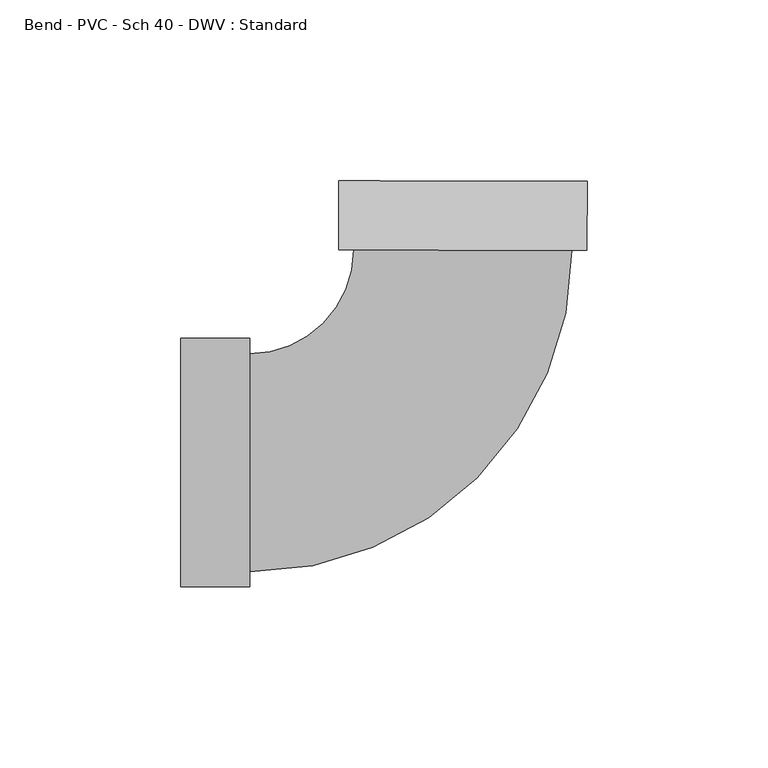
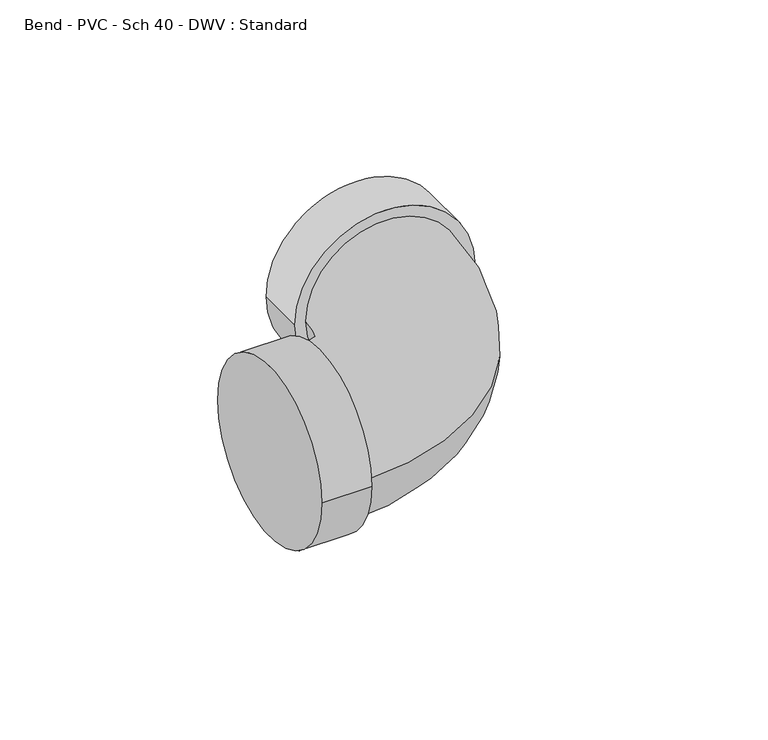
"""IFC4 building model written with IfcOpenShell, lengths in millimetres: pipe fitting geometry, Bend - PVC - Sch 40 - DWV : Standard."""

from ifc_helpers import new_model, si_unit, point, frame, origin, place, context, project, spatial, circle_curve, ellipse_curve, trimmed, source, transform, mapped, element, save
from ifc_brep_helpers import plane_surface, cylinder_surface, revolved_surface, advanced_brep


def bend_pvc_sch_40_dwv_standard_2ba8ce22(model_context):
    return source(origin(), model_context, "Body", "AdvancedBrep", [
        advanced_brep(
        [(-77.8002, -34.3154, 0.0), (-77.8002, 34.3154, 0.0), (-58.7502, -34.3154, 0.0), (-58.7502, 34.3154, 0.0), (-58.7502, -30.1625, 0.0), (-58.7502, 30.1625, 0.0), (-30.0659751, 58.799656, 0.0), (30.2589436, 58.7005855, 0.0), (34.411838, 58.6937653, 0.0), (-34.2188695, 58.8064763, 0.0), (34.4431234, 77.7437396, 0.0), (-34.187584, 77.8564506, 0.0)],
        [
            (0, 1, circle_curve(frame((-77.8002, 0.0, 0.0), z_axis=(-1.0, 0.0, 0.0), x_axis=(0.0, 1.0, 0.0)), 34.3154)),
            (1, 0, circle_curve(frame((-77.8002, 0.0, 0.0), z_axis=(-1.0, 0.0, 0.0), x_axis=(0.0, 1.0, 0.0)), 34.3154)),
            (2, 3, circle_curve(frame((-58.7502, 0.0, 0.0), z_axis=(1.0, 0.0, 0.0), x_axis=(0.0, 1.0, 0.0)), 34.3154)),
            (3, 2, circle_curve(frame((-58.7502, 0.0, 0.0), z_axis=(1.0, 0.0, 0.0), x_axis=(0.0, 1.0, 0.0)), 34.3154)),
            (4, 5, circle_curve(frame((-58.7502, 0.0, 0.0), z_axis=(-1.0, 0.0, 0.0), x_axis=(0.0, 1.0, 0.0)), 30.1625)),
            (5, 4, circle_curve(frame((-58.7502, 0.0, 0.0), z_axis=(-1.0, 0.0, 0.0), x_axis=(0.0, 1.0, 0.0)), 30.1625)),
            (0, 2),
            (3, 1),
            (6, 5, circle_curve(frame((-58.7502, 58.8467636, 0.0), z_axis=(0.0, 0.0, -1.0), x_axis=(0.0, -1.0, 0.0)), 28.6842636)),
            (4, 7, circle_curve(frame((-58.7502, 58.8467636, 0.0), z_axis=(0.0, 0.0, 1.0), x_axis=(0.0, -1.0, 0.0)), 89.0092636)),
            (7, 6, circle_curve(frame((0.0964843, 58.7501208, 0.0), z_axis=(-0.0016422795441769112, -0.9999986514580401, 0.0), x_axis=(-0.9999986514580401, 0.0016422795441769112, 0.0)), 30.1625)),
            (6, 7, circle_curve(frame((0.0964843, 58.7501208, 0.0), z_axis=(-0.0016422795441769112, -0.9999986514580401, 0.0), x_axis=(-0.9999986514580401, 0.0016422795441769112, 0.0)), 30.1625)),
            (8, 9, circle_curve(frame((0.0964843, 58.7501208, 0.0), z_axis=(-0.001642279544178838, -0.9999986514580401, 0.0), x_axis=(-0.9999986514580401, 0.001642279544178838, 0.0)), 34.3154)),
            (9, 8, circle_curve(frame((0.0964843, 58.7501208, 0.0), z_axis=(-0.001642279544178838, -0.9999986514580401, 0.0), x_axis=(-0.9999986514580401, 0.001642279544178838, 0.0)), 34.3154)),
            (10, 11, circle_curve(frame((0.1277697, 77.8000951, 0.0), z_axis=(0.001642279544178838, 0.9999986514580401, 0.0), x_axis=(-0.9999986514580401, 0.001642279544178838, 0.0)), 34.3154)),
            (11, 10, circle_curve(frame((0.1277697, 77.8000951, 0.0), z_axis=(0.001642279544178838, 0.9999986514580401, 0.0), x_axis=(-0.9999986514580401, 0.001642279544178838, 0.0)), 34.3154)),
            (8, 10),
            (11, 9),
        ],
        [
            plane_surface(frame((-77.8002, 0.0, 0.0), z_axis=(-1.0, 0.0, 0.0), x_axis=(0.0, 0.0, 1.0))),
            plane_surface(frame((-58.7502, 0.0, 0.0), z_axis=(1.0, 0.0, 0.0), x_axis=(0.0, 0.0, 1.0))),
            cylinder_surface(frame((-77.8002, 0.0, 0.0), z_axis=(-1.0, 0.0, 0.0), x_axis=(0.0, 1.0, 0.0)), 34.3154),
            revolved_surface(trimmed(ellipse_curve(frame((-58.7502, 0.0, 0.0), z_axis=(-1.0, 0.0, 0.0), x_axis=(0.0, 1.0, 0.0)), 30.1625, 30.1625), [point((-58.7502, -30.1625, 0.0))], [point((-58.7502, 30.1625, 0.0))], True, "CARTESIAN"), (-58.7502, 58.8467636, 0.0), (0.0, 0.0, 1.0)),
            revolved_surface(trimmed(ellipse_curve(frame((-58.7502, 0.0, 0.0), z_axis=(-1.0, 0.0, 0.0), x_axis=(0.0, 1.0, 0.0)), 30.1625, 30.1625), [point((-58.7502, 30.1625, 0.0))], [point((-58.7502, -30.1625, 0.0))], True, "CARTESIAN"), (-58.7502, 58.8467636, 0.0), (0.0, 0.0, 1.0)),
            plane_surface(frame((0.0964843, 58.7501208, 0.0), z_axis=(-0.001642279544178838, -0.9999986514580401, 0.0), x_axis=(0.0, 0.0, 1.0))),
            plane_surface(frame((0.1277697, 77.8000951, 0.0), z_axis=(0.001642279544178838, 0.9999986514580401, 0.0), x_axis=(0.0, 0.0, 1.0))),
            cylinder_surface(frame((0.0964843, 58.7501208, 0.0), z_axis=(-0.001642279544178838, -0.9999986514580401, 0.0), x_axis=(-0.9999986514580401, 0.001642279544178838, 0.0)), 34.3154),
        ],
        [
            (0, [[1, 2]]),
            (1, [[3, 4], [5, 6]]),
            (2, [[-1, 7, -4, 8]]),
            (2, [[-2, -8, -3, -7]]),
            (3, [[9, -5, 10, 11]]),
            (4, [[-9, 12, -10, -6]]),
            (5, [[13, 14], [-11, -12]]),
            (6, [[15, 16]]),
            (7, [[-13, 17, -16, 18]]),
            (7, [[-14, -18, -15, -17]]),
        ],
    ),
    ])


if __name__ == "__main__":
    model = new_model("IFC4")
    model_context = context("Model", 3, world=origin())
    ifc_project = project(units=[si_unit("LENGTHUNIT", "METRE", prefix="MILLI")], contexts=[model_context])
    site = spatial("IfcSite", under=ifc_project)
    building = spatial("IfcBuilding", under=site)
    placement = place(None, origin())
    bend_pvc_sch_40_dwv_standard_shape = bend_pvc_sch_40_dwv_standard_2ba8ce22(model_context)
    element("IfcPipeFitting", 1, ObjectType="Bend - PVC - Sch 40 - DWV : Standard", at=placement, inside=building, context=model_context, shape_type="MappedRepresentation", body=[
        mapped(bend_pvc_sch_40_dwv_standard_shape, transform((0.0, 0.0, 0.0), x_axis=(1.0, 0.0, 0.0), y_axis=(0.0, 1.0, 0.0), z_axis=(0.0, 0.0, 1.0))),
    ])
    save(model, "model.ifc")
